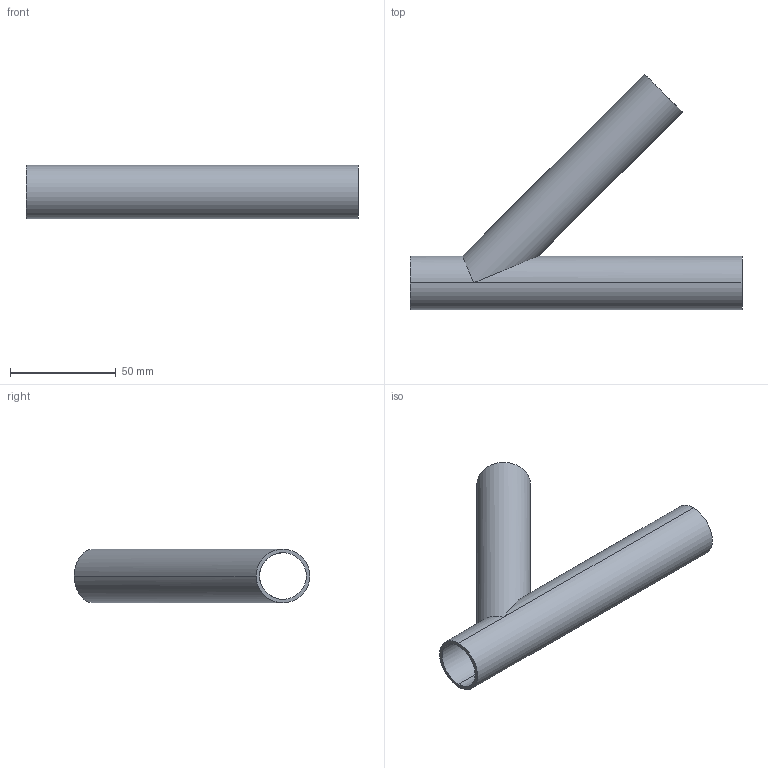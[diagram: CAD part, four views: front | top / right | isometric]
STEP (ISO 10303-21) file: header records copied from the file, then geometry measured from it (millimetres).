
FILE_DESCRIPTION (( 'STEP AP203' ), '1' );
FILE_NAME ('E28WA1.0.STEP', '2018-05-07T17:58:23', ( 'vneprd' ), ( 'Microsoft' ), 'SwSTEP 2.0', 'SolidWorks 2014', '' );
FILE_SCHEMA (( 'CONFIG_CONTROL_DESIGN' ));
Length unit declared in the file: inch
Products named in the file (1): E28WA1.0
Bounding box: 157.15 x 111.48 x 25.4 mm (x, y, z)
Volume: 32363.7 mm3; surface area: 39564.2 mm2
Topology: 1 solids, 1 shells, 13 faces, 32 edges, 20 vertices
Faces by surface type: cylinder 10, plane 3
Entity records: 473 total; most frequent: CARTESIAN_POINT 90, ORIENTED_EDGE 64, DIRECTION 64, EDGE_CURVE 32, AXIS2_PLACEMENT_3D 26, VERTEX_POINT 20, EDGE_LOOP 16, ADVANCED_FACE 13
